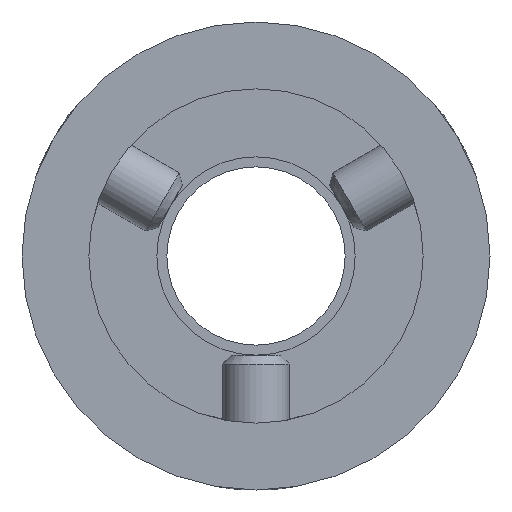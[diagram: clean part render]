
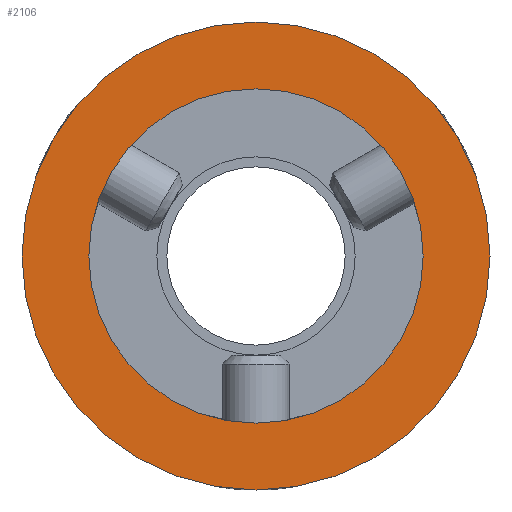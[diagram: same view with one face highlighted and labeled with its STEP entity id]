
A CAD part, front view. The second image highlights one B-rep face of the part: STEP entity #2106.
In plain terms, the highlighted planar face has unit normal (0, -1, 0).
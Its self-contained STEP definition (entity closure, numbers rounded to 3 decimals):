
#137 = DIRECTION ( 'NONE',  ( 0., -1., 0. ) ) ;
#170 = CARTESIAN_POINT ( 'NONE',  ( 0., 0., 0. ) ) ;
#171 = AXIS2_PLACEMENT_3D ( 'NONE', #1175, #137, #1010 ) ;
#229 = EDGE_CURVE ( 'NONE', #1581, #357, #976, .T. ) ;
#280 = EDGE_CURVE ( 'NONE', #663, #2036, #461, .T. ) ;
#305 = PLANE ( 'NONE',  #2173 ) ;
#353 = AXIS2_PLACEMENT_3D ( 'NONE', #1691, #678, #1875 ) ;
#355 = ORIENTED_EDGE ( 'NONE', *, *, #229, .T. ) ;
#357 = VERTEX_POINT ( 'NONE', #474 ) ;
#369 = CIRCLE ( 'NONE', #353, 10.5 ) ;
#443 = CARTESIAN_POINT ( 'NONE',  ( 0., 0., 0. ) ) ;
#461 = CIRCLE ( 'NONE', #171, 7.5 ) ;
#474 = CARTESIAN_POINT ( 'NONE',  ( 0., 0., -10.5 ) ) ;
#612 = DIRECTION ( 'NONE',  ( 0., 0., -1. ) ) ;
#663 = VERTEX_POINT ( 'NONE', #1580 ) ;
#678 = DIRECTION ( 'NONE',  ( 0., -1., 0. ) ) ;
#804 = ORIENTED_EDGE ( 'NONE', *, *, #1237, .F. ) ;
#806 = CARTESIAN_POINT ( 'NONE',  ( 0., 0., -7.5 ) ) ;
#824 = ORIENTED_EDGE ( 'NONE', *, *, #280, .F. ) ;
#842 = CARTESIAN_POINT ( 'NONE',  ( 4., 0., 0. ) ) ;
#976 = CIRCLE ( 'NONE', #1469, 10.5 ) ;
#1010 = DIRECTION ( 'NONE',  ( 0., 0., -1. ) ) ;
#1018 = DIRECTION ( 'NONE',  ( 0., -1., 0. ) ) ;
#1175 = CARTESIAN_POINT ( 'NONE',  ( 0., 0., 0. ) ) ;
#1209 = DIRECTION ( 'NONE',  ( 0., -1., 0. ) ) ;
#1237 = EDGE_CURVE ( 'NONE', #2036, #663, #2157, .T. ) ;
#1323 = FACE_OUTER_BOUND ( 'NONE', #2164, .T. ) ;
#1377 = DIRECTION ( 'NONE',  ( 0., 0., -1. ) ) ;
#1469 = AXIS2_PLACEMENT_3D ( 'NONE', #170, #1209, #1377 ) ;
#1502 = CARTESIAN_POINT ( 'NONE',  ( 0., 0., 10.5 ) ) ;
#1580 = CARTESIAN_POINT ( 'NONE',  ( 0., 0., 7.5 ) ) ;
#1581 = VERTEX_POINT ( 'NONE', #1502 ) ;
#1620 = DIRECTION ( 'NONE',  ( 0., -1., 0. ) ) ;
#1662 = EDGE_CURVE ( 'NONE', #357, #1581, #369, .T. ) ;
#1687 = AXIS2_PLACEMENT_3D ( 'NONE', #443, #1620, #612 ) ;
#1691 = CARTESIAN_POINT ( 'NONE',  ( 0., 0., 0. ) ) ;
#1778 = FACE_BOUND ( 'NONE', #2017, .T. ) ;
#1875 = DIRECTION ( 'NONE',  ( 0., 0., -1. ) ) ;
#2017 = EDGE_LOOP ( 'NONE', ( #804, #824 ) ) ;
#2036 = VERTEX_POINT ( 'NONE', #806 ) ;
#2106 = ADVANCED_FACE ( 'NONE', ( #1778, #1323 ), #305, .T. ) ;
#2123 = ORIENTED_EDGE ( 'NONE', *, *, #1662, .T. ) ;
#2157 = CIRCLE ( 'NONE', #1687, 7.5 ) ;
#2164 = EDGE_LOOP ( 'NONE', ( #2123, #355 ) ) ;
#2173 = AXIS2_PLACEMENT_3D ( 'NONE', #842, #1018, #2203 ) ;
#2203 = DIRECTION ( 'NONE',  ( 0., 0., -1. ) ) ;
